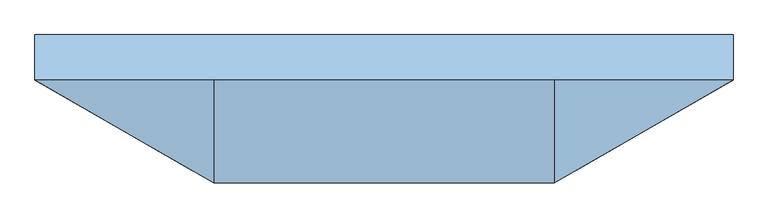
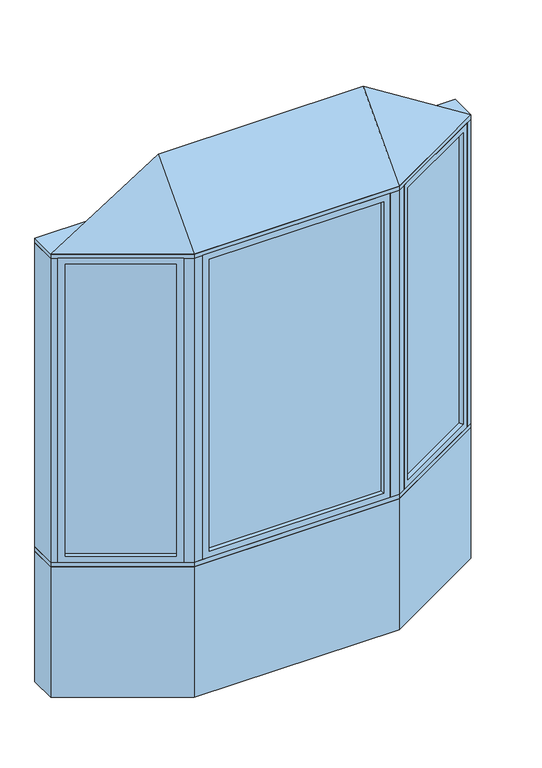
"""IFC4 building model written with IfcOpenShell, lengths in millimetres: window geometry, Pollard_Windows_Tudor Casement Bows and Bays : AML-BAY 30 AFR0618-12-600."""

from ifc_helpers import new_model, si_unit, frame, origin, origin_with_axes, place, context, project, spatial, polyline, outline, extrude, faceted_brep, source, transform, mapped, element, save


def window_56d50813(model_context):
    return source(origin(), model_context, "Body", "SolidModel", [
        extrude(outline(polyline([(1113.112102, -82.0482469), (624.8834764, -363.9271754), (622.3434764, -359.5277664), (1110.572102, -77.6488379), (1113.112102, -82.0482469)])), frame((0.0, 0.0, 823.1628), z_axis=(0.0, 0.0, 1.0), x_axis=(1.0, 0.0, 0.0)), (0.0, 0.0, 1.0), 1753.6704),
        faceted_brep([(1102.1135794, -88.3982469, 835.8628), (1114.8135794, -110.3952922, 835.8628), (1114.8135794, -110.3952922, 2564.1332), (1102.1135794, -88.3982469, 2564.1332), (1110.572102, -77.6488379, 823.1628), (1113.112102, -82.0482469, 823.1628), (1113.112102, -82.0482469, 2576.8332), (1110.572102, -77.6488379, 2576.8332), (1086.8735794, -62.0017926, 835.8628), (1099.5735794, -83.9988379, 835.8628), (1099.5735794, -83.9988379, 2564.1332), (1086.8735794, -62.0017926, 2564.1332), (1145.8734073, -92.4628922, 799.998), (1117.9334073, -44.0693926, 799.998), (1117.9334073, -44.0693926, 2599.998), (1145.8734073, -92.4628922, 2599.998), (648.581999, -379.5742207, 2564.1332), (635.881999, -357.5771754, 2564.1332), (624.8834764, -363.9271754, 2576.8332), (622.3434764, -359.5277664, 2576.8332), (633.341999, -353.1777664, 2564.1332), (620.641999, -331.1807211, 2564.1332), (589.5821711, -349.1131211, 2599.998), (617.5221711, -397.5066207, 2599.998), (648.581999, -379.5742207, 835.8628), (635.881999, -357.5771754, 835.8628), (624.8834764, -363.9271754, 823.1628), (622.3434764, -359.5277664, 823.1628), (633.341999, -353.1777664, 835.8628), (620.641999, -331.1807211, 835.8628), (589.5821711, -349.1131211, 799.998), (617.5221711, -397.5066207, 799.998)], [[[0, 1, 2, 3]], [[4, 5, 6, 7]], [[8, 9, 10, 11]], [[12, 13, 14, 15]], [[3, 2, 16, 17]], [[7, 6, 18, 19]], [[11, 10, 20, 21]], [[15, 14, 22, 23]], [[17, 16, 24, 25]], [[19, 18, 26, 27]], [[21, 20, 28, 29]], [[23, 22, 30, 31]], [[25, 24, 1, 0]], [[5, 26, 18, 6], [3, 17, 25, 0]], [[27, 26, 5, 4]], [[7, 19, 27, 4], [9, 28, 20, 10]], [[29, 28, 9, 8]], [[13, 30, 22, 14], [11, 21, 29, 8]], [[31, 30, 13, 12]], [[15, 23, 31, 12], [1, 24, 16, 2]]]),
        extrude(outline(polyline([(-624.8834764, -363.9271754), (-1113.112102, -82.0482469), (-1110.572102, -77.6488379), (-622.3434764, -359.5277664), (-624.8834764, -363.9271754)])), frame((0.0, 0.0, 823.1628), z_axis=(0.0, 0.0, 1.0), x_axis=(1.0, 0.0, 0.0)), (0.0, 0.0, 1.0), 1753.6704),
        faceted_brep([(-633.341999, -353.1777664, 2564.1332), (-620.641999, -331.1807211, 2564.1332), (-620.641999, -331.1807211, 835.8628), (-633.341999, -353.1777664, 835.8628), (-624.8834764, -363.9271754, 2576.8332), (-622.3434764, -359.5277664, 2576.8332), (-622.3434764, -359.5277664, 823.1628), (-624.8834764, -363.9271754, 823.1628), (-648.581999, -379.5742207, 2564.1332), (-635.881999, -357.5771754, 2564.1332), (-635.881999, -357.5771754, 835.8628), (-648.581999, -379.5742207, 835.8628), (-589.5821711, -349.1131211, 2599.998), (-617.5221711, -397.5066207, 2599.998), (-617.5221711, -397.5066207, 799.998), (-589.5821711, -349.1131211, 799.998), (-1086.8735794, -62.0017926, 835.8628), (-1099.5735794, -83.9988379, 835.8628), (-1110.572102, -77.6488379, 823.1628), (-1113.112102, -82.0482469, 823.1628), (-1102.1135794, -88.3982469, 835.8628), (-1114.8135794, -110.3952922, 835.8628), (-1145.8734073, -92.4628922, 799.998), (-1117.9334073, -44.0693926, 799.998), (-1086.8735794, -62.0017926, 2564.1332), (-1099.5735794, -83.9988379, 2564.1332), (-1110.572102, -77.6488379, 2576.8332), (-1113.112102, -82.0482469, 2576.8332), (-1102.1135794, -88.3982469, 2564.1332), (-1114.8135794, -110.3952922, 2564.1332), (-1145.8734073, -92.4628922, 2599.998), (-1117.9334073, -44.0693926, 2599.998)], [[[0, 1, 2, 3]], [[4, 5, 6, 7]], [[8, 9, 10, 11]], [[12, 13, 14, 15]], [[3, 2, 16, 17]], [[7, 6, 18, 19]], [[11, 10, 20, 21]], [[15, 14, 22, 23]], [[17, 16, 24, 25]], [[19, 18, 26, 27]], [[21, 20, 28, 29]], [[23, 22, 30, 31]], [[15, 23, 31, 12], [1, 24, 16, 2]], [[25, 24, 1, 0]], [[5, 26, 18, 6], [3, 17, 25, 0]], [[27, 26, 5, 4]], [[7, 19, 27, 4], [9, 28, 20, 10]], [[29, 28, 9, 8]], [[13, 30, 22, 14], [11, 21, 29, 8]], [[31, 30, 13, 12]]]),
        extrude(outline(polyline([(501.0561009, -397.1066207), (-501.0561009, -397.1066207), (-501.0561009, -392.0266207), (501.0561009, -392.0266207), (501.0561009, -397.1066207)])), frame((0.0, 0.0, 823.1628), z_axis=(0.0, 0.0, 1.0), x_axis=(1.0, 0.0, 0.0)), (0.0, 0.0, 1.0), 1753.6704),
        faceted_brep([(488.3561009, -397.1066207, 835.8628), (488.3561009, -422.5066207, 835.8628), (488.3561009, -422.5066207, 2564.1332), (488.3561009, -397.1066207, 2564.1332), (501.0561009, -392.0266207, 823.1628), (501.0561009, -397.1066207, 823.1628), (501.0561009, -397.1066207, 2576.8332), (501.0561009, -392.0266207, 2576.8332), (488.3561009, -366.6266207, 835.8628), (488.3561009, -392.0266207, 835.8628), (488.3561009, -392.0266207, 2564.1332), (488.3561009, -366.6266207, 2564.1332), (524.2209009, -422.5066207, 799.998), (524.2209009, -366.6266207, 799.998), (524.2209009, -366.6266207, 2599.998), (524.2209009, -422.5066207, 2599.998), (-488.3561009, -422.5066207, 2564.1332), (-488.3561009, -397.1066207, 2564.1332), (-501.0561009, -397.1066207, 2576.8332), (-501.0561009, -392.0266207, 2576.8332), (-488.3561009, -392.0266207, 2564.1332), (-488.3561009, -366.6266207, 2564.1332), (-524.2209009, -366.6266207, 2599.998), (-524.2209009, -422.5066207, 2599.998), (-488.3561009, -422.5066207, 835.8628), (-488.3561009, -397.1066207, 835.8628), (-501.0561009, -397.1066207, 823.1628), (-501.0561009, -392.0266207, 823.1628), (-488.3561009, -392.0266207, 835.8628), (-488.3561009, -366.6266207, 835.8628), (-524.2209009, -366.6266207, 799.998), (-524.2209009, -422.5066207, 799.998)], [[[0, 1, 2, 3]], [[4, 5, 6, 7]], [[8, 9, 10, 11]], [[12, 13, 14, 15]], [[3, 2, 16, 17]], [[7, 6, 18, 19]], [[11, 10, 20, 21]], [[15, 14, 22, 23]], [[17, 16, 24, 25]], [[19, 18, 26, 27]], [[21, 20, 28, 29]], [[23, 22, 30, 31]], [[15, 23, 31, 12], [1, 24, 16, 2]], [[25, 24, 1, 0]], [[5, 26, 18, 6], [3, 17, 25, 0]], [[27, 26, 5, 4]], [[7, 19, 27, 4], [9, 28, 20, 10]], [[29, 28, 9, 8]], [[13, 30, 22, 14], [11, 21, 29, 8]], [[31, 30, 13, 12]]]),
        faceted_brep([(1176.5, -74.7806207, 2625.398), (574.2209009, -422.5066207, 2625.398), (-574.2209009, -422.5066207, 2625.398), (-1176.5, -74.7806207, 2625.398), (-574.2209009, -74.7806207, 3006.398), (574.2209009, -74.7806207, 3006.398)], [[[0, 1, 2, 3]], [[3, 2, 4]], [[2, 1, 5, 4]], [[1, 0, 5]], [[0, 3, 4, 5]]]),
        extrude(outline(polyline([(-1176.5, 77.6193793), (1176.5, 77.6193793), (1176.5, -74.7806207), (574.2209009, -422.5066207), (-574.2209009, -422.5066207), (-1176.5, -74.7806207), (-1176.5, 77.6193793)])), frame((0.0, 0.0, 2599.998), z_axis=(0.0, 0.0, 1.0), x_axis=(1.0, 0.0, 0.0)), (0.0, 0.0, 1.0), 25.4),
        extrude(outline(polyline([(-1176.5, -74.7806207), (-1176.5, 77.6193793), (-1135.6645431, 77.6193793), (-1135.6645431, -74.7806207), (-1145.8734073, -92.4628922), (-1176.5, -74.7806207)])), frame((0.0, 0.0, 799.998), z_axis=(0.0, 0.0, 1.0), x_axis=(1.0, 0.0, 0.0)), (0.0, 0.0, 1.0), 1800.0),
        extrude(outline(polyline([(1176.5, 77.6193793), (1176.5, -74.7806207), (1145.8734073, -92.4628922), (1135.6645431, -74.7806207), (1135.6645431, 77.6193793), (1176.5, 77.6193793)])), frame((0.0, 0.0, 799.998), z_axis=(0.0, 0.0, 1.0), x_axis=(1.0, 0.0, 0.0)), (0.0, 0.0, 1.0), 1800.0),
        extrude(outline(polyline([(574.2209009, -422.5066207), (524.2209009, -422.5066207), (524.2209009, -372.5066207), (560.8234413, -372.5066207), (592.5221711, -354.2053505), (617.5221711, -397.5066207), (574.2209009, -422.5066207)])), frame((0.0, 0.0, 799.998), z_axis=(0.0, 0.0, 1.0), x_axis=(1.0, 0.0, 0.0)), (0.0, 0.0, 1.0), 1800.0),
        extrude(outline(polyline([(-574.2209009, -422.5066207), (-617.5221711, -397.5066207), (-592.5221711, -354.2053505), (-560.8234413, -372.5066207), (-524.2209009, -372.5066207), (-524.2209009, -422.5066207), (-574.2209009, -422.5066207)])), frame((0.0, 0.0, 799.998), z_axis=(0.0, 0.0, 1.0), x_axis=(1.0, 0.0, 0.0)), (0.0, 0.0, 1.0), 1800.0),
        extrude(outline(polyline([(-574.2209009, -422.5066207), (-1176.5, -74.7806207), (-1176.5, 77.6193793), (-1135.6645431, 77.6193793), (-533.385444, -270.1066207), (533.385444, -270.1066207), (1135.6645431, 77.6193793), (1176.5, 77.6193793), (1176.5, -74.7806207), (574.2209009, -422.5066207), (-574.2209009, -422.5066207)])), frame((0.0, 0.0, 774.598), z_axis=(0.0, 0.0, 1.0), x_axis=(1.0, 0.0, 0.0)), (0.0, 0.0, 1.0), 25.4),
        extrude(outline(polyline([(-1176.5, -74.7806207), (-1176.5, 77.6193793), (-1135.6645431, 77.6193793), (-533.385444, -270.1066207), (533.385444, -270.1066207), (1135.6645431, 77.6193793), (1176.5, 77.6193793), (1176.5, -74.7806207), (574.2209009, -422.5066207), (-574.2209009, -422.5066207), (-1176.5, -74.7806207)])), origin_with_axes(), (0.0, 0.0, 1.0), 774.598),
    ])


if __name__ == "__main__":
    model = new_model("IFC4")
    model_context = context("Model", 3, world=origin())
    ifc_project = project(units=[si_unit("LENGTHUNIT", "METRE", prefix="MILLI")], contexts=[model_context])
    site = spatial("IfcSite", under=ifc_project)
    building = spatial("IfcBuilding", under=site)
    placement = place(None, origin())
    window_shape = window_56d50813(model_context)
    element("IfcWindow", 1, ObjectType="Pollard_Windows_Tudor Casement Bows and Bays : AML-BAY 30 AFR0618-12-600", at=placement, inside=building, context=model_context, shape_type="MappedRepresentation", body=[
        mapped(window_shape, transform((0.0, 0.0, 0.0), x_axis=(1.0, 0.0, 0.0), y_axis=(0.0, 1.0, 0.0), z_axis=(0.0, 0.0, 1.0))),
    ])
    save(model, "model.ifc")
